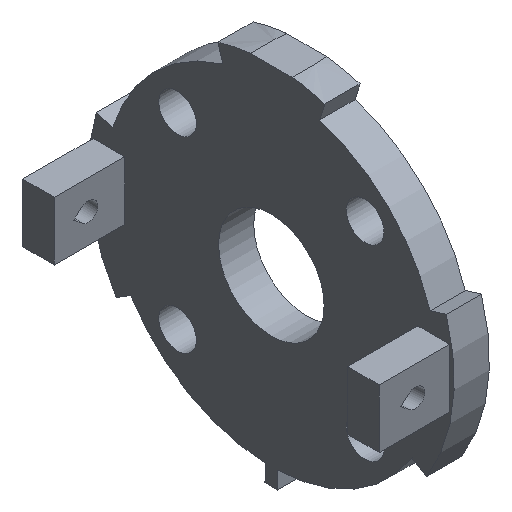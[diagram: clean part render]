
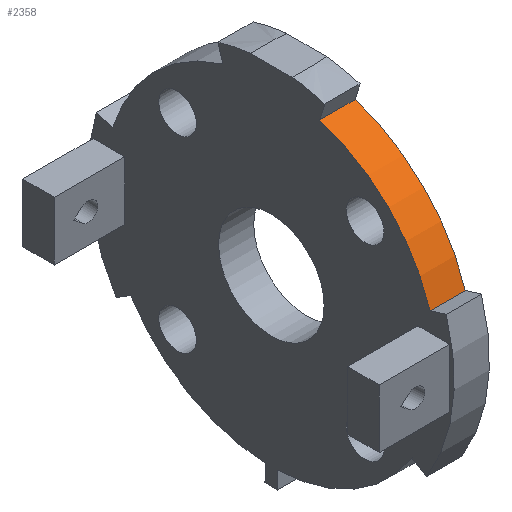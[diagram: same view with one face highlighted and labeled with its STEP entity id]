
A CAD part, isometric view. The second image highlights one B-rep face of the part: STEP entity #2358.
In plain terms, the highlighted cylindrical face has radius 14.15 mm (diameter 28.3 mm), a partial arc.
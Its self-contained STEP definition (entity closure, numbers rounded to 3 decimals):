
#195 = PLANE('',#196);
#196 = AXIS2_PLACEMENT_3D('',#197,#198,#199);
#197 = CARTESIAN_POINT('',(445.6,0.,0.));
#198 = DIRECTION('',(1.,0.,0.));
#199 = DIRECTION('',(-0.,0.,1.));
#250 = PLANE('',#251);
#251 = AXIS2_PLACEMENT_3D('',#252,#253,#254);
#252 = CARTESIAN_POINT('',(442.6,0.,0.));
#253 = DIRECTION('',(1.,0.,0.));
#254 = DIRECTION('',(-0.,0.,1.));
#797 = VERTEX_POINT('',#798);
#798 = CARTESIAN_POINT('',(442.6,-4.137,13.532));
#811 = PLANE('',#812);
#812 = AXIS2_PLACEMENT_3D('',#813,#814,#815);
#813 = CARTESIAN_POINT('',(441.6,0.,0.));
#814 = DIRECTION('',(0.,-0.956,-0.292));
#815 = DIRECTION('',(0.,-0.292,0.956));
#822 = EDGE_CURVE('',#797,#823,#825,.T.);
#823 = VERTEX_POINT('',#824);
#824 = CARTESIAN_POINT('',(442.6,-13.532,4.137));
#825 = SURFACE_CURVE('',#826,(#831,#838),.PCURVE_S1.);
#826 = CIRCLE('',#827,14.15);
#827 = AXIS2_PLACEMENT_3D('',#828,#829,#830);
#828 = CARTESIAN_POINT('',(442.6,0.,0.));
#829 = DIRECTION('',(1.,0.,0.));
#830 = DIRECTION('',(-0.,0.,1.));
#831 = PCURVE('',#250,#832);
#832 = DEFINITIONAL_REPRESENTATION('',(#833),#837);
#833 = CIRCLE('',#834,14.15);
#834 = AXIS2_PLACEMENT_2D('',#835,#836);
#835 = CARTESIAN_POINT('',(0.,0.));
#836 = DIRECTION('',(1.,0.));
#837 = ( GEOMETRIC_REPRESENTATION_CONTEXT(2) 
PARAMETRIC_REPRESENTATION_CONTEXT() REPRESENTATION_CONTEXT('2D SPACE',''
  ) );
#838 = PCURVE('',#839,#844);
#839 = CYLINDRICAL_SURFACE('',#840,14.15);
#840 = AXIS2_PLACEMENT_3D('',#841,#842,#843);
#841 = CARTESIAN_POINT('',(440.6,0.,0.));
#842 = DIRECTION('',(1.,0.,0.));
#843 = DIRECTION('',(-0.,0.,1.));
#844 = DEFINITIONAL_REPRESENTATION('',(#845),#849);
#845 = LINE('',#846,#847);
#846 = CARTESIAN_POINT('',(0.,2.));
#847 = VECTOR('',#848,1.);
#848 = DIRECTION('',(1.,0.));
#849 = ( GEOMETRIC_REPRESENTATION_CONTEXT(2) 
PARAMETRIC_REPRESENTATION_CONTEXT() REPRESENTATION_CONTEXT('2D SPACE',''
  ) );
#866 = PLANE('',#867);
#867 = AXIS2_PLACEMENT_3D('',#868,#869,#870);
#868 = CARTESIAN_POINT('',(441.6,-28.689,8.771));
#869 = DIRECTION('',(-0.,0.292,0.956));
#870 = DIRECTION('',(0.,0.956,-0.292));
#1628 = VERTEX_POINT('',#1629);
#1629 = CARTESIAN_POINT('',(445.6,-4.137,13.532));
#1648 = EDGE_CURVE('',#1628,#1649,#1651,.T.);
#1649 = VERTEX_POINT('',#1650);
#1650 = CARTESIAN_POINT('',(445.6,-13.532,4.137));
#1651 = SURFACE_CURVE('',#1652,(#1657,#1664),.PCURVE_S1.);
#1652 = CIRCLE('',#1653,14.15);
#1653 = AXIS2_PLACEMENT_3D('',#1654,#1655,#1656);
#1654 = CARTESIAN_POINT('',(445.6,0.,0.));
#1655 = DIRECTION('',(1.,0.,0.));
#1656 = DIRECTION('',(-0.,0.,1.));
#1657 = PCURVE('',#195,#1658);
#1658 = DEFINITIONAL_REPRESENTATION('',(#1659),#1663);
#1659 = CIRCLE('',#1660,14.15);
#1660 = AXIS2_PLACEMENT_2D('',#1661,#1662);
#1661 = CARTESIAN_POINT('',(0.,0.));
#1662 = DIRECTION('',(1.,0.));
#1663 = ( GEOMETRIC_REPRESENTATION_CONTEXT(2) 
PARAMETRIC_REPRESENTATION_CONTEXT() REPRESENTATION_CONTEXT('2D SPACE',''
  ) );
#1664 = PCURVE('',#839,#1665);
#1665 = DEFINITIONAL_REPRESENTATION('',(#1666),#1670);
#1666 = LINE('',#1667,#1668);
#1667 = CARTESIAN_POINT('',(0.,5.));
#1668 = VECTOR('',#1669,1.);
#1669 = DIRECTION('',(1.,0.));
#1670 = ( GEOMETRIC_REPRESENTATION_CONTEXT(2) 
PARAMETRIC_REPRESENTATION_CONTEXT() REPRESENTATION_CONTEXT('2D SPACE',''
  ) );
#2313 = EDGE_CURVE('',#797,#1628,#2314,.T.);
#2314 = SURFACE_CURVE('',#2315,(#2319,#2325),.PCURVE_S1.);
#2315 = LINE('',#2316,#2317);
#2316 = CARTESIAN_POINT('',(440.6,-4.137,13.532));
#2317 = VECTOR('',#2318,1.);
#2318 = DIRECTION('',(1.,0.,0.));
#2319 = PCURVE('',#811,#2320);
#2320 = DEFINITIONAL_REPRESENTATION('',(#2321),#2324);
#2321 = B_SPLINE_CURVE_WITH_KNOTS('',1,(#2322,#2323),.UNSPECIFIED.,.F.,
  .F.,(2,2),(0.5,6.5),.PIECEWISE_BEZIER_KNOTS.);
#2322 = CARTESIAN_POINT('',(14.15,0.5));
#2323 = CARTESIAN_POINT('',(14.15,-5.5));
#2324 = ( GEOMETRIC_REPRESENTATION_CONTEXT(2) 
PARAMETRIC_REPRESENTATION_CONTEXT() REPRESENTATION_CONTEXT('2D SPACE',''
  ) );
#2325 = PCURVE('',#839,#2326);
#2326 = DEFINITIONAL_REPRESENTATION('',(#2327),#2330);
#2327 = B_SPLINE_CURVE_WITH_KNOTS('',1,(#2328,#2329),.UNSPECIFIED.,.F.,
  .F.,(2,2),(0.5,6.5),.PIECEWISE_BEZIER_KNOTS.);
#2328 = CARTESIAN_POINT('',(0.297,0.5));
#2329 = CARTESIAN_POINT('',(0.297,6.5));
#2330 = ( GEOMETRIC_REPRESENTATION_CONTEXT(2) 
PARAMETRIC_REPRESENTATION_CONTEXT() REPRESENTATION_CONTEXT('2D SPACE',''
  ) );
#2358 = ADVANCED_FACE('',(#2359),#839,.T.);
#2359 = FACE_BOUND('',#2360,.T.);
#2360 = EDGE_LOOP('',(#2361,#2362,#2363,#2382));
#2361 = ORIENTED_EDGE('',*,*,#2313,.F.);
#2362 = ORIENTED_EDGE('',*,*,#822,.T.);
#2363 = ORIENTED_EDGE('',*,*,#2364,.T.);
#2364 = EDGE_CURVE('',#823,#1649,#2365,.T.);
#2365 = SURFACE_CURVE('',#2366,(#2370,#2376),.PCURVE_S1.);
#2366 = LINE('',#2367,#2368);
#2367 = CARTESIAN_POINT('',(440.6,-13.532,4.137));
#2368 = VECTOR('',#2369,1.);
#2369 = DIRECTION('',(1.,0.,0.));
#2370 = PCURVE('',#839,#2371);
#2371 = DEFINITIONAL_REPRESENTATION('',(#2372),#2375);
#2372 = B_SPLINE_CURVE_WITH_KNOTS('',1,(#2373,#2374),.UNSPECIFIED.,.F.,
  .F.,(2,2),(0.5,6.5),.PIECEWISE_BEZIER_KNOTS.);
#2373 = CARTESIAN_POINT('',(1.274,0.5));
#2374 = CARTESIAN_POINT('',(1.274,6.5));
#2375 = ( GEOMETRIC_REPRESENTATION_CONTEXT(2) 
PARAMETRIC_REPRESENTATION_CONTEXT() REPRESENTATION_CONTEXT('2D SPACE',''
  ) );
#2376 = PCURVE('',#866,#2377);
#2377 = DEFINITIONAL_REPRESENTATION('',(#2378),#2381);
#2378 = B_SPLINE_CURVE_WITH_KNOTS('',1,(#2379,#2380),.UNSPECIFIED.,.F.,
  .F.,(2,2),(0.5,6.5),.PIECEWISE_BEZIER_KNOTS.);
#2379 = CARTESIAN_POINT('',(15.85,0.5));
#2380 = CARTESIAN_POINT('',(15.85,-5.5));
#2381 = ( GEOMETRIC_REPRESENTATION_CONTEXT(2) 
PARAMETRIC_REPRESENTATION_CONTEXT() REPRESENTATION_CONTEXT('2D SPACE',''
  ) );
#2382 = ORIENTED_EDGE('',*,*,#1648,.F.);
